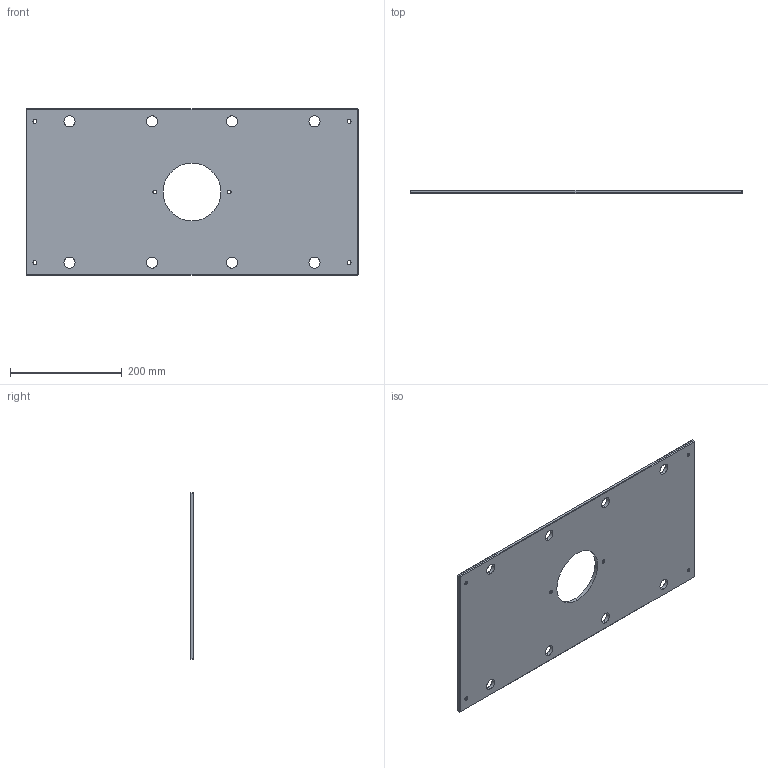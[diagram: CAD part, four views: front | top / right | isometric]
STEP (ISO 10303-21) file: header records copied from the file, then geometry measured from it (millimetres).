
FILE_DESCRIPTION (( 'STEP AP214' ), '1' );
FILE_NAME ('ME-0619-CH-1223.STEP', '2020-02-11T12:01:15', ( '' ), ( '' ), 'SwSTEP 2.0', 'SolidWorks 2018', '' );
FILE_SCHEMA (( 'AUTOMOTIVE_DESIGN' ));
Length unit declared in the file: inch
Products named in the file (1): ME-0619-CH-1223
Bounding box: 593.73 x 6.35 x 298.45 mm (x, y, z)
Volume: 1050781.3 mm3; surface area: 346835.9 mm2
Topology: 1 solids, 1 shells, 68 faces, 162 edges, 96 vertices
Faces by surface type: cylinder 30, plane 26, cone 12
Entity records: 2050 total; most frequent: DIRECTION 372, CARTESIAN_POINT 327, ORIENTED_EDGE 324, EDGE_CURVE 162, AXIS2_PLACEMENT_3D 141, EDGE_LOOP 98, VERTEX_POINT 96, LINE 90
